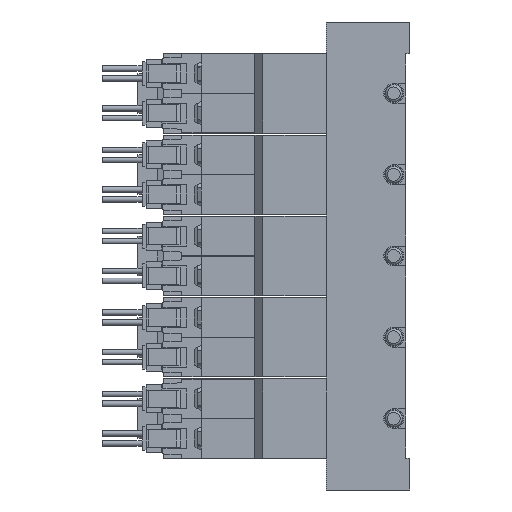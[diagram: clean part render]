
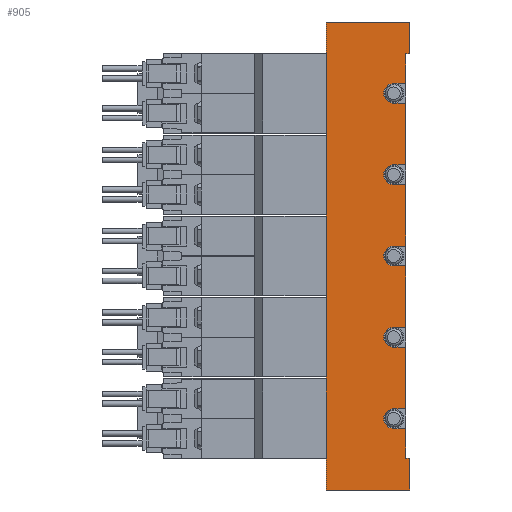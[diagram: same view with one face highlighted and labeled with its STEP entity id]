
A CAD part, left-side view. The second image highlights one B-rep face of the part: STEP entity #905.
In plain terms, the highlighted planar face has unit normal (-1, 0, 0) as drawn and (1, 0, 0) by its records, which use the part's own axes.
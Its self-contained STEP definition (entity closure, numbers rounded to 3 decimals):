
#905=ADVANCED_FACE('',(#1910),#1911,.F.);
#1910=FACE_OUTER_BOUND('',#2938,.T.);
#1911=PLANE('',#2939);
#2938=EDGE_LOOP('',(#6380,#6381,#6382,#6383,#6384,#6385,#6386,#6387,#6388,#6389,#6390,#6391,#6392,#6393,#6394,#6395,#6396,#6397,#6398,#6399,#6400,#6401,#6402,#6403,#6404,#6405,#6406,#6407));
#2939=AXIS2_PLACEMENT_3D('',#6408,#6409,#6410);
#6380=ORIENTED_EDGE('',*,*,#7556,.T.);
#6381=ORIENTED_EDGE('',*,*,#7573,.T.);
#6382=ORIENTED_EDGE('',*,*,#7489,.F.);
#6383=ORIENTED_EDGE('',*,*,#7578,.F.);
#6384=ORIENTED_EDGE('',*,*,#7550,.T.);
#6385=ORIENTED_EDGE('',*,*,#7454,.T.);
#6386=ORIENTED_EDGE('',*,*,#7516,.T.);
#6387=ORIENTED_EDGE('',*,*,#7484,.F.);
#6388=ORIENTED_EDGE('',*,*,#7423,.F.);
#6389=ORIENTED_EDGE('',*,*,#7433,.F.);
#6390=ORIENTED_EDGE('',*,*,#7515,.T.);
#6391=ORIENTED_EDGE('',*,*,#7522,.F.);
#6392=ORIENTED_EDGE('',*,*,#7582,.F.);
#6393=ORIENTED_EDGE('',*,*,#7542,.F.);
#6394=ORIENTED_EDGE('',*,*,#7511,.T.);
#6395=ORIENTED_EDGE('',*,*,#7581,.F.);
#6396=ORIENTED_EDGE('',*,*,#7537,.F.);
#6397=ORIENTED_EDGE('',*,*,#7583,.F.);
#6398=ORIENTED_EDGE('',*,*,#7508,.T.);
#6399=ORIENTED_EDGE('',*,*,#7568,.F.);
#6400=ORIENTED_EDGE('',*,*,#7576,.F.);
#6401=ORIENTED_EDGE('',*,*,#7584,.F.);
#6402=ORIENTED_EDGE('',*,*,#7504,.T.);
#6403=ORIENTED_EDGE('',*,*,#7567,.F.);
#6404=ORIENTED_EDGE('',*,*,#7480,.F.);
#6405=ORIENTED_EDGE('',*,*,#7448,.F.);
#6406=ORIENTED_EDGE('',*,*,#7502,.T.);
#6407=ORIENTED_EDGE('',*,*,#7531,.T.);
#6408=CARTESIAN_POINT('',(17.5,1.0,59.0));
#6409=DIRECTION('',(-1.0,0.0,0.0));
#6410=DIRECTION('',(0.0,0.0,1.0));
#7423=EDGE_CURVE('',#9147,#9149,#9150,.T.);
#7433=EDGE_CURVE('',#9168,#9147,#9169,.T.);
#7448=EDGE_CURVE('',#9194,#9195,#9196,.T.);
#7454=EDGE_CURVE('',#9207,#9204,#9208,.T.);
#7480=EDGE_CURVE('',#9195,#9249,#9250,.T.);
#7484=EDGE_CURVE('',#9149,#9255,#9256,.T.);
#7489=EDGE_CURVE('',#9263,#9258,#9265,.T.);
#7502=EDGE_CURVE('',#9194,#9288,#9291,.T.);
#7504=EDGE_CURVE('',#9294,#9292,#9295,.T.);
#7508=EDGE_CURVE('',#9302,#9300,#9303,.T.);
#7511=EDGE_CURVE('',#9307,#9305,#9308,.T.);
#7515=EDGE_CURVE('',#9168,#9313,#9315,.T.);
#7516=EDGE_CURVE('',#9204,#9255,#9316,.T.);
#7522=EDGE_CURVE('',#9325,#9313,#9326,.T.);
#7531=EDGE_CURVE('',#9288,#9337,#9339,.T.);
#7537=EDGE_CURVE('',#9349,#9351,#9352,.T.);
#7542=EDGE_CURVE('',#9307,#9360,#9361,.T.);
#7550=EDGE_CURVE('',#9374,#9207,#9375,.T.);
#7556=EDGE_CURVE('',#9337,#9385,#9386,.T.);
#7567=EDGE_CURVE('',#9249,#9292,#9399,.T.);
#7568=EDGE_CURVE('',#9400,#9300,#9401,.T.);
#7573=EDGE_CURVE('',#9385,#9258,#9408,.T.);
#7576=EDGE_CURVE('',#9410,#9400,#9412,.T.);
#7578=EDGE_CURVE('',#9374,#9263,#9414,.T.);
#7581=EDGE_CURVE('',#9351,#9305,#9417,.T.);
#7582=EDGE_CURVE('',#9360,#9325,#9418,.T.);
#7583=EDGE_CURVE('',#9302,#9349,#9419,.T.);
#7584=EDGE_CURVE('',#9294,#9410,#9420,.T.);
#9147=VERTEX_POINT('',#12158);
#9149=VERTEX_POINT('',#12161);
#9150=CIRCLE('',#12162,2.5);
#9168=VERTEX_POINT('',#12181);
#9169=LINE('',#12182,#12183);
#9194=VERTEX_POINT('',#12216);
#9195=VERTEX_POINT('',#12217);
#9196=LINE('',#12218,#12219);
#9204=VERTEX_POINT('',#12231);
#9207=VERTEX_POINT('',#12235);
#9208=LINE('',#12236,#12237);
#9249=VERTEX_POINT('',#12286);
#9250=CIRCLE('',#12287,2.5);
#9255=VERTEX_POINT('',#12293);
#9256=LINE('',#12294,#12295);
#9258=VERTEX_POINT('',#12298);
#9263=VERTEX_POINT('',#12305);
#9265=LINE('',#12308,#12309);
#9288=VERTEX_POINT('',#12332);
#9291=LINE('',#12336,#12337);
#9292=VERTEX_POINT('',#12338);
#9294=VERTEX_POINT('',#12341);
#9295=LINE('',#12342,#12343);
#9300=VERTEX_POINT('',#12350);
#9302=VERTEX_POINT('',#12353);
#9303=LINE('',#12354,#12355);
#9305=VERTEX_POINT('',#12358);
#9307=VERTEX_POINT('',#12361);
#9308=LINE('',#12362,#12363);
#9313=VERTEX_POINT('',#12370);
#9315=LINE('',#12373,#12374);
#9316=LINE('',#12375,#12376);
#9325=VERTEX_POINT('',#12388);
#9326=LINE('',#12389,#12390);
#9337=VERTEX_POINT('',#12406);
#9339=LINE('',#12409,#12410);
#9349=VERTEX_POINT('',#12420);
#9351=VERTEX_POINT('',#12423);
#9352=CIRCLE('',#12424,2.5);
#9360=VERTEX_POINT('',#12433);
#9361=LINE('',#12434,#12435);
#9374=VERTEX_POINT('',#12450);
#9375=LINE('',#12451,#12452);
#9385=VERTEX_POINT('',#12463);
#9386=LINE('',#12464,#12465);
#9399=LINE('',#12482,#12483);
#9400=VERTEX_POINT('',#12484);
#9401=LINE('',#12485,#12486);
#9408=LINE('',#12495,#12496);
#9410=VERTEX_POINT('',#12499);
#9412=CIRCLE('',#12502,2.5);
#9414=LINE('',#12505,#12506);
#9417=LINE('',#12509,#12510);
#9418=CIRCLE('',#12511,2.5);
#9419=LINE('',#12512,#12513);
#9420=LINE('',#12514,#12515);
#12158=CARTESIAN_POINT('',(17.5,4.0,38.5));
#12161=CARTESIAN_POINT('',(17.5,4.0,43.5));
#12162=AXIS2_PLACEMENT_3D('',#13657,#13658,#13659);
#12181=CARTESIAN_POINT('',(17.5,1.0,38.5));
#12182=CARTESIAN_POINT('',(17.5,1.0,38.5));
#12183=VECTOR('',#13685,1.0);
#12216=CARTESIAN_POINT('',(17.5,1.0,-43.5));
#12217=CARTESIAN_POINT('',(17.5,4.0,-43.5));
#12218=CARTESIAN_POINT('',(17.5,1.0,-43.5));
#12219=VECTOR('',#13709,1.0);
#12231=CARTESIAN_POINT('',(17.5,1.0,51.0));
#12235=CARTESIAN_POINT('',(17.5,0.0,51.0));
#12236=CARTESIAN_POINT('',(17.5,0.0,51.0));
#12237=VECTOR('',#13715,1.0);
#12286=CARTESIAN_POINT('',(17.5,4.0,-38.5));
#12287=AXIS2_PLACEMENT_3D('',#13769,#13770,#13771);
#12293=CARTESIAN_POINT('',(17.5,1.0,43.5));
#12294=CARTESIAN_POINT('',(17.5,1.0,43.5));
#12295=VECTOR('',#13779,1.0);
#12298=CARTESIAN_POINT('',(17.5,21.0,-59.0));
#12305=CARTESIAN_POINT('',(17.5,21.0,59.0));
#12308=CARTESIAN_POINT('',(17.5,21.0,59.0));
#12309=VECTOR('',#13784,1.0);
#12332=CARTESIAN_POINT('',(17.5,1.0,-51.0));
#12336=CARTESIAN_POINT('',(17.5,1.0,59.0));
#12337=VECTOR('',#13819,1.0);
#12338=CARTESIAN_POINT('',(17.5,1.0,-38.5));
#12341=CARTESIAN_POINT('',(17.5,1.0,-23.0));
#12342=CARTESIAN_POINT('',(17.5,1.0,59.0));
#12343=VECTOR('',#13821,1.0);
#12350=CARTESIAN_POINT('',(17.5,1.0,-18.0));
#12353=CARTESIAN_POINT('',(17.5,1.0,-2.5));
#12354=CARTESIAN_POINT('',(17.5,1.0,59.0));
#12355=VECTOR('',#13825,1.0);
#12358=CARTESIAN_POINT('',(17.5,1.0,2.5));
#12361=CARTESIAN_POINT('',(17.5,1.0,18.0));
#12362=CARTESIAN_POINT('',(17.5,1.0,59.0));
#12363=VECTOR('',#13828,1.0);
#12370=CARTESIAN_POINT('',(17.5,1.0,23.0));
#12373=CARTESIAN_POINT('',(17.5,1.0,59.0));
#12374=VECTOR('',#13832,1.0);
#12375=CARTESIAN_POINT('',(17.5,1.0,59.0));
#12376=VECTOR('',#13833,1.0);
#12388=CARTESIAN_POINT('',(17.5,4.0,23.0));
#12389=CARTESIAN_POINT('',(17.5,1.0,23.0));
#12390=VECTOR('',#13843,1.0);
#12406=CARTESIAN_POINT('',(17.5,0.0,-51.0));
#12409=CARTESIAN_POINT('',(17.5,4.0,-51.0));
#12410=VECTOR('',#13856,1.0);
#12420=CARTESIAN_POINT('',(17.5,4.0,-2.5));
#12423=CARTESIAN_POINT('',(17.5,4.0,2.5));
#12424=AXIS2_PLACEMENT_3D('',#13870,#13871,#13872);
#12433=CARTESIAN_POINT('',(17.5,4.0,18.0));
#12434=CARTESIAN_POINT('',(17.5,1.0,18.0));
#12435=VECTOR('',#13883,1.0);
#12450=CARTESIAN_POINT('',(17.5,0.0,59.0));
#12451=CARTESIAN_POINT('',(17.5,0.0,59.0));
#12452=VECTOR('',#13901,1.0);
#12463=CARTESIAN_POINT('',(17.5,0.0,-59.0));
#12464=CARTESIAN_POINT('',(17.5,0.0,-51.0));
#12465=VECTOR('',#13915,1.0);
#12482=CARTESIAN_POINT('',(17.5,1.0,-38.5));
#12483=VECTOR('',#13935,1.0);
#12484=CARTESIAN_POINT('',(17.5,4.0,-18.0));
#12485=CARTESIAN_POINT('',(17.5,1.0,-18.0));
#12486=VECTOR('',#13936,1.0);
#12495=CARTESIAN_POINT('',(17.5,1.0,-59.0));
#12496=VECTOR('',#13945,1.0);
#12499=CARTESIAN_POINT('',(17.5,4.0,-23.0));
#12502=AXIS2_PLACEMENT_3D('',#13948,#13949,#13950);
#12505=CARTESIAN_POINT('',(17.5,1.0,59.0));
#12506=VECTOR('',#13952,1.0);
#12509=CARTESIAN_POINT('',(17.5,1.0,2.5));
#12510=VECTOR('',#13956,1.0);
#12511=AXIS2_PLACEMENT_3D('',#13957,#13958,#13959);
#12512=CARTESIAN_POINT('',(17.5,1.0,-2.5));
#12513=VECTOR('',#13960,1.0);
#12514=CARTESIAN_POINT('',(17.5,1.0,-23.0));
#12515=VECTOR('',#13961,1.0);
#13657=CARTESIAN_POINT('',(17.5,4.0,41.0));
#13658=DIRECTION('',(1.0,0.0,-0.0));
#13659=DIRECTION('',(0.0,0.0,1.0));
#13685=DIRECTION('',(0.0,1.0,0.0));
#13709=DIRECTION('',(0.0,1.0,0.0));
#13715=DIRECTION('',(0.0,1.0,0.0));
#13769=CARTESIAN_POINT('',(17.5,4.0,-41.0));
#13770=DIRECTION('',(1.0,0.0,-0.0));
#13771=DIRECTION('',(0.0,0.0,1.0));
#13779=DIRECTION('',(0.0,-1.0,0.0));
#13784=DIRECTION('',(0.0,0.0,-1.0));
#13819=DIRECTION('',(0.0,0.0,-1.0));
#13821=DIRECTION('',(0.0,0.0,-1.0));
#13825=DIRECTION('',(0.0,0.0,-1.0));
#13828=DIRECTION('',(0.0,0.0,-1.0));
#13832=DIRECTION('',(0.0,0.0,-1.0));
#13833=DIRECTION('',(0.0,0.0,-1.0));
#13843=DIRECTION('',(0.0,-1.0,0.0));
#13856=DIRECTION('',(0.0,-1.0,0.0));
#13870=CARTESIAN_POINT('',(17.5,4.0,0.0));
#13871=DIRECTION('',(1.0,0.0,-0.0));
#13872=DIRECTION('',(0.0,0.0,1.0));
#13883=DIRECTION('',(0.0,1.0,0.0));
#13901=DIRECTION('',(0.0,0.0,-1.0));
#13915=DIRECTION('',(0.0,0.0,-1.0));
#13935=DIRECTION('',(0.0,-1.0,0.0));
#13936=DIRECTION('',(0.0,-1.0,0.0));
#13945=DIRECTION('',(0.0,1.0,0.0));
#13948=CARTESIAN_POINT('',(17.5,4.0,-20.5));
#13949=DIRECTION('',(1.0,0.0,-0.0));
#13950=DIRECTION('',(0.0,0.0,1.0));
#13952=DIRECTION('',(0.0,1.0,0.0));
#13956=DIRECTION('',(0.0,-1.0,0.0));
#13957=CARTESIAN_POINT('',(17.5,4.0,20.5));
#13958=DIRECTION('',(1.0,0.0,-0.0));
#13959=DIRECTION('',(0.0,0.0,1.0));
#13960=DIRECTION('',(0.0,1.0,0.0));
#13961=DIRECTION('',(0.0,1.0,0.0));
